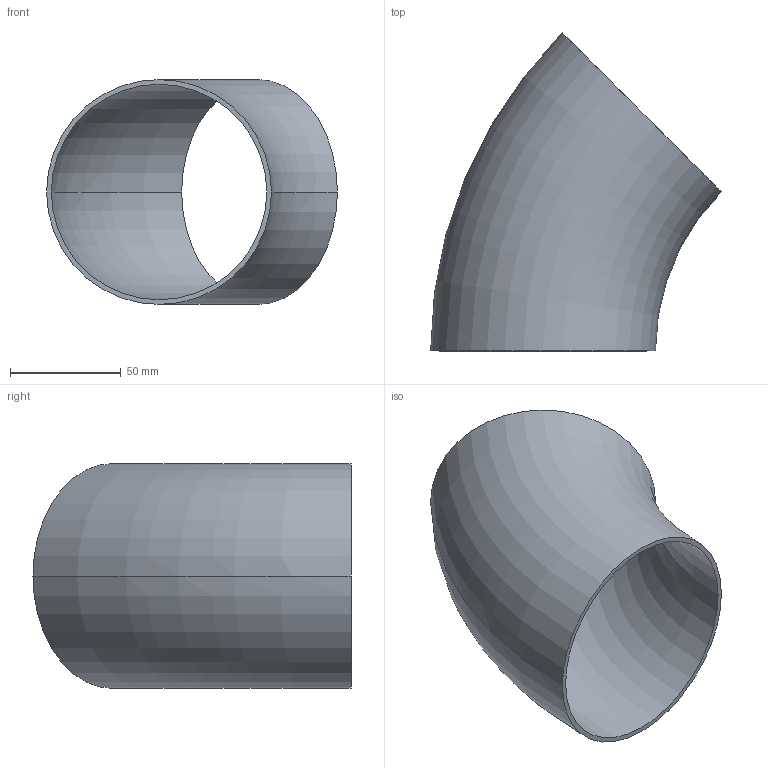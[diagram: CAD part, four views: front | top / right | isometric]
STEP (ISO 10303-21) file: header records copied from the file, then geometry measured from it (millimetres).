
FILE_DESCRIPTION (( 'STEP AP203' ), '1' );
FILE_NAME ('E2WK4.0.STEP', '2018-04-30T18:08:29', ( 'vneprd' ), ( 'Microsoft' ), 'SwSTEP 2.0', 'SolidWorks 2014', '' );
FILE_SCHEMA (( 'CONFIG_CONTROL_DESIGN' ));
Length unit declared in the file: inch
Products named in the file (1): E2WK4.0
Bounding box: 131.36 x 143.68 x 101.6 mm (x, y, z)
Volume: 78872.2 mm3; surface area: 76142.1 mm2
Topology: 1 solids, 1 shells, 6 faces, 12 edges, 8 vertices
Faces by surface type: torus 4, plane 2
Entity records: 251 total; most frequent: DIRECTION 38, CARTESIAN_POINT 27, ORIENTED_EDGE 24, AXIS2_PLACEMENT_3D 19, CIRCLE 12, EDGE_CURVE 12, PERSON_AND_ORGANIZATION 8, EDGE_LOOP 8
